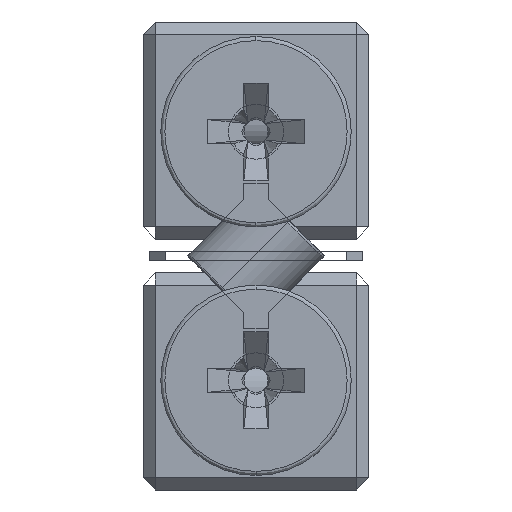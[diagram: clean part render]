
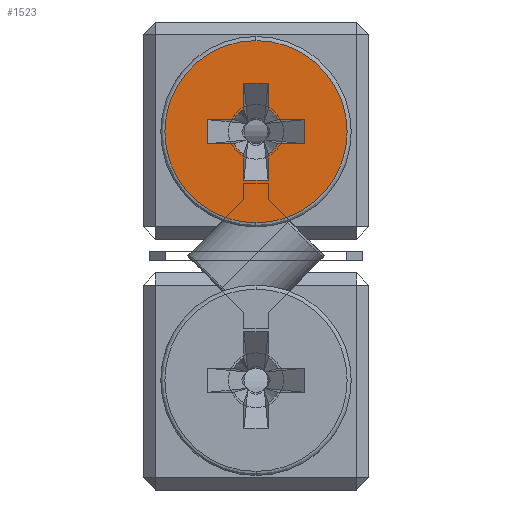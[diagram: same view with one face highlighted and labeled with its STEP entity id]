
A CAD part, left-side view. The second image highlights one B-rep face of the part: STEP entity #1523.
In plain terms, the highlighted planar face has unit normal (-1, 0, 0).
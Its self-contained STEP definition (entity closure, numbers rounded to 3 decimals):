
#839 = DIRECTION ( 'NONE',  ( 0., -1., 0. ) ) ;
#840 = CARTESIAN_POINT ( 'NONE',  ( -521.307, 70.585, 24.95 ) ) ;
#845 = CARTESIAN_POINT ( 'NONE',  ( -521.307, 75.085, 32.45 ) ) ;
#846 = DIRECTION ( 'NONE',  ( 0., 0., 1. ) ) ;
#847 = CARTESIAN_POINT ( 'NONE',  ( -521.307, 69.085, 30.95 ) ) ;
#848 = DIRECTION ( 'NONE',  ( -1., 0., 0. ) ) ;
#849 = DIRECTION ( 'NONE',  ( 0., 0., 1. ) ) ;
#850 = CARTESIAN_POINT ( 'NONE',  ( -521.307, 75.085, 32.45 ) ) ;
#851 = DIRECTION ( 'NONE',  ( 0., 0., -1. ) ) ;
#852 = CARTESIAN_POINT ( 'NONE',  ( -521.307, 63.085, 29.45 ) ) ;
#853 = DIRECTION ( 'NONE',  ( 0., 1., 0. ) ) ;
#854 = CARTESIAN_POINT ( 'NONE',  ( -521.307, 69.085, 30.95 ) ) ;
#855 = DIRECTION ( 'NONE',  ( -1., 0., 0. ) ) ;
#856 = DIRECTION ( 'NONE',  ( 0., 0., 1. ) ) ;
#857 = CARTESIAN_POINT ( 'NONE',  ( -521.307, 69.085, 30.95 ) ) ;
#858 = DIRECTION ( 'NONE',  ( -1., 0., 0. ) ) ;
#859 = DIRECTION ( 'NONE',  ( 0., 0., -1. ) ) ;
#864 = DIRECTION ( 'NONE',  ( 0., 0., -1. ) ) ;
#868 = CARTESIAN_POINT ( 'NONE',  ( -521.307, 70.585, 24.95 ) ) ;
#869 = CARTESIAN_POINT ( 'NONE',  ( -521.307, 67.585, 36.95 ) ) ;
#876 = DIRECTION ( 'NONE',  ( 0., -1., 0. ) ) ;
#886 = CARTESIAN_POINT ( 'NONE',  ( -521.307, 70.585, 24.95 ) ) ;
#887 = DIRECTION ( 'NONE',  ( 0., 0., 1. ) ) ;
#889 = CARTESIAN_POINT ( 'NONE',  ( -521.307, 67.585, 36.95 ) ) ;
#896 = DIRECTION ( 'NONE',  ( 0., 1., 0. ) ) ;
#904 = CARTESIAN_POINT ( 'NONE',  ( -521.307, 75.085, 32.45 ) ) ;
#905 = DIRECTION ( 'NONE',  ( 0., -1., 0. ) ) ;
#906 = CARTESIAN_POINT ( 'NONE',  ( -521.307, 67.585, 36.95 ) ) ;
#907 = DIRECTION ( 'NONE',  ( 0., 0., -1. ) ) ;
#914 = CARTESIAN_POINT ( 'NONE',  ( -521.307, 63.085, 29.45 ) ) ;
#916 = DIRECTION ( 'NONE',  ( 0., 0., 1. ) ) ;
#919 = CARTESIAN_POINT ( 'NONE',  ( -521.307, 63.085, 29.45 ) ) ;
#920 = DIRECTION ( 'NONE',  ( 0., 1., 0. ) ) ;
#941 = CARTESIAN_POINT ( 'NONE',  ( -521.307, 69.085, 30.95 ) ) ;
#942 = DIRECTION ( 'NONE',  ( -1., 0., 0. ) ) ;
#943 = DIRECTION ( 'NONE',  ( 0., 0., -1. ) ) ;
#958 = CARTESIAN_POINT ( 'NONE',  ( -521.307, 69.085, 30.95 ) ) ;
#959 = DIRECTION ( 'NONE',  ( -1., 0., 0. ) ) ;
#960 = DIRECTION ( 'NONE',  ( 0., 0., 1. ) ) ;
#979 = CARTESIAN_POINT ( 'NONE',  ( -521.307, 69.085, 30.95 ) ) ;
#980 = DIRECTION ( 'NONE',  ( -1., 0., 0. ) ) ;
#981 = DIRECTION ( 'NONE',  ( 0., 0., 1. ) ) ;
#1523 = ADVANCED_FACE ( 'NONE', ( #10070, #10073 ), #16661, .F. ) ;
#1634 = LINE ( 'NONE', #840, #1636 ) ;
#1636 = VECTOR ( 'NONE', #846, 1000. ) ;
#1637 = CIRCLE ( 'NONE', #19050, 3.138 ) ;
#1638 = LINE ( 'NONE', #845, #1640 ) ;
#1639 = LINE ( 'NONE', #850, #1642 ) ;
#1640 = VECTOR ( 'NONE', #839, 1000. ) ;
#1641 = LINE ( 'NONE', #852, #1644 ) ;
#1642 = VECTOR ( 'NONE', #851, 1000. ) ;
#1643 = CIRCLE ( 'NONE', #19051, 3.138 ) ;
#1644 = VECTOR ( 'NONE', #853, 1000. ) ;
#1645 = CIRCLE ( 'NONE', #19052, 11.3 ) ;
#1647 = LINE ( 'NONE', #869, #1651 ) ;
#1649 = LINE ( 'NONE', #868, #1655 ) ;
#1651 = VECTOR ( 'NONE', #864, 1000. ) ;
#1652 = LINE ( 'NONE', #886, #1659 ) ;
#1655 = VECTOR ( 'NONE', #876, 1000. ) ;
#1658 = LINE ( 'NONE', #889, #1660 ) ;
#1659 = VECTOR ( 'NONE', #887, 1000. ) ;
#1660 = VECTOR ( 'NONE', #896, 1000. ) ;
#1663 = LINE ( 'NONE', #914, #1669 ) ;
#1665 = LINE ( 'NONE', #904, #1668 ) ;
#1667 = LINE ( 'NONE', #906, #1670 ) ;
#1668 = VECTOR ( 'NONE', #905, 1000. ) ;
#1669 = VECTOR ( 'NONE', #916, 1000. ) ;
#1670 = VECTOR ( 'NONE', #907, 1000. ) ;
#1675 = LINE ( 'NONE', #919, #1678 ) ;
#1678 = VECTOR ( 'NONE', #920, 1000. ) ;
#1683 = CIRCLE ( 'NONE', #10632, 11.3 ) ;
#1686 = CIRCLE ( 'NONE', #10633, 3.138 ) ;
#1692 = CIRCLE ( 'NONE', #10634, 3.138 ) ;
#2307 = ORIENTED_EDGE ( 'NONE', *, *, #7106, .F. ) ;
#2312 = ORIENTED_EDGE ( 'NONE', *, *, #7057, .T. ) ;
#2313 = ORIENTED_EDGE ( 'NONE', *, *, #7066, .T. ) ;
#2316 = ORIENTED_EDGE ( 'NONE', *, *, #7091, .F. ) ;
#2317 = ORIENTED_EDGE ( 'NONE', *, *, #7064, .F. ) ;
#2341 = ORIENTED_EDGE ( 'NONE', *, *, #7087, .T. ) ;
#2361 = ORIENTED_EDGE ( 'NONE', *, *, #7139, .F. ) ;
#2364 = ORIENTED_EDGE ( 'NONE', *, *, #7100, .T. ) ;
#2370 = ORIENTED_EDGE ( 'NONE', *, *, #7053, .T. ) ;
#2375 = ORIENTED_EDGE ( 'NONE', *, *, #7128, .T. ) ;
#2377 = ORIENTED_EDGE ( 'NONE', *, *, #7061, .T. ) ;
#2386 = ORIENTED_EDGE ( 'NONE', *, *, #7079, .F. ) ;
#2391 = ORIENTED_EDGE ( 'NONE', *, *, #7149, .F. ) ;
#2396 = ORIENTED_EDGE ( 'NONE', *, *, #7074, .T. ) ;
#2397 = ORIENTED_EDGE ( 'NONE', *, *, #7113, .T. ) ;
#2406 = ORIENTED_EDGE ( 'NONE', *, *, #7059, .F. ) ;
#2436 = ORIENTED_EDGE ( 'NONE', *, *, #7102, .T. ) ;
#2448 = ORIENTED_EDGE ( 'NONE', *, *, #7055, .F. ) ;
#7053 = EDGE_CURVE ( 'NONE', #14700, #14698, #1634, .T. ) ;
#7055 = EDGE_CURVE ( 'NONE', #14700, #14776, #1637, .T. ) ;
#7057 = EDGE_CURVE ( 'NONE', #14636, #14776, #1638, .T. ) ;
#7059 = EDGE_CURVE ( 'NONE', #14636, #14774, #1639, .T. ) ;
#7061 = EDGE_CURVE ( 'NONE', #14781, #14774, #1641, .T. ) ;
#7064 = EDGE_CURVE ( 'NONE', #14781, #14653, #1643, .T. ) ;
#7066 = EDGE_CURVE ( 'NONE', #14743, #14696, #1645, .T. ) ;
#7074 = EDGE_CURVE ( 'NONE', #14757, #14619, #1647, .T. ) ;
#7079 = EDGE_CURVE ( 'NONE', #14633, #14619, #1649, .T. ) ;
#7087 = EDGE_CURVE ( 'NONE', #14633, #14653, #1652, .T. ) ;
#7091 = EDGE_CURVE ( 'NONE', #14707, #14698, #1658, .T. ) ;
#7100 = EDGE_CURVE ( 'NONE', #14761, #14651, #1665, .T. ) ;
#7102 = EDGE_CURVE ( 'NONE', #14707, #14690, #1667, .T. ) ;
#7106 = EDGE_CURVE ( 'NONE', #14694, #14651, #1663, .T. ) ;
#7113 = EDGE_CURVE ( 'NONE', #14694, #14758, #1675, .T. ) ;
#7128 = EDGE_CURVE ( 'NONE', #14696, #14743, #1683, .T. ) ;
#7139 = EDGE_CURVE ( 'NONE', #14761, #14690, #1686, .T. ) ;
#7149 = EDGE_CURVE ( 'NONE', #14757, #14758, #1692, .T. ) ;
#8929 = CARTESIAN_POINT ( 'NONE',  ( -521.307, 67.585, 24.95 ) ) ;
#8948 = CARTESIAN_POINT ( 'NONE',  ( -521.307, 70.585, 24.95 ) ) ;
#8952 = CARTESIAN_POINT ( 'NONE',  ( -521.307, 75.085, 32.45 ) ) ;
#8968 = CARTESIAN_POINT ( 'NONE',  ( -521.307, 63.085, 32.45 ) ) ;
#8970 = CARTESIAN_POINT ( 'NONE',  ( -521.307, 70.585, 28.194 ) ) ;
#9014 = CARTESIAN_POINT ( 'NONE',  ( -521.307, 67.585, 33.706 ) ) ;
#9020 = CARTESIAN_POINT ( 'NONE',  ( -521.307, 63.085, 29.45 ) ) ;
#9024 = CARTESIAN_POINT ( 'NONE',  ( -521.307, 69.085, 42.25 ) ) ;
#9027 = CARTESIAN_POINT ( 'NONE',  ( -521.307, 70.585, 36.95 ) ) ;
#9030 = CARTESIAN_POINT ( 'NONE',  ( -521.307, 70.585, 33.706 ) ) ;
#9039 = CARTESIAN_POINT ( 'NONE',  ( -521.307, 67.585, 36.95 ) ) ;
#9086 = CARTESIAN_POINT ( 'NONE',  ( -521.307, 69.085, 19.65 ) ) ;
#9101 = CARTESIAN_POINT ( 'NONE',  ( -521.307, 67.585, 28.194 ) ) ;
#9102 = CARTESIAN_POINT ( 'NONE',  ( -521.307, 66.329, 29.45 ) ) ;
#9105 = CARTESIAN_POINT ( 'NONE',  ( -521.307, 66.329, 32.45 ) ) ;
#9120 = CARTESIAN_POINT ( 'NONE',  ( -521.307, 75.085, 29.45 ) ) ;
#9122 = CARTESIAN_POINT ( 'NONE',  ( -521.307, 71.841, 32.45 ) ) ;
#9127 = CARTESIAN_POINT ( 'NONE',  ( -521.307, 71.841, 29.45 ) ) ;
#10070 = FACE_OUTER_BOUND ( 'NONE', #10270, .T. ) ;
#10073 = FACE_BOUND ( 'NONE', #10274, .T. ) ;
#10270 = EDGE_LOOP ( 'NONE', ( #2313, #2375 ) ) ;
#10274 = EDGE_LOOP ( 'NONE', ( #2391, #2396, #2386, #2341, #2317, #2377, #2406, #2312, #2448, #2370, #2316, #2436, #2361, #2364, #2307, #2397 ) ) ;
#10632 = AXIS2_PLACEMENT_3D ( 'NONE', #941, #942, #943 ) ;
#10633 = AXIS2_PLACEMENT_3D ( 'NONE', #958, #959, #960 ) ;
#10634 = AXIS2_PLACEMENT_3D ( 'NONE', #979, #980, #981 ) ;
#14619 = VERTEX_POINT ( 'NONE', #8929 ) ;
#14633 = VERTEX_POINT ( 'NONE', #8948 ) ;
#14636 = VERTEX_POINT ( 'NONE', #8952 ) ;
#14651 = VERTEX_POINT ( 'NONE', #8968 ) ;
#14653 = VERTEX_POINT ( 'NONE', #8970 ) ;
#14690 = VERTEX_POINT ( 'NONE', #9014 ) ;
#14694 = VERTEX_POINT ( 'NONE', #9020 ) ;
#14696 = VERTEX_POINT ( 'NONE', #9024 ) ;
#14698 = VERTEX_POINT ( 'NONE', #9027 ) ;
#14700 = VERTEX_POINT ( 'NONE', #9030 ) ;
#14707 = VERTEX_POINT ( 'NONE', #9039 ) ;
#14743 = VERTEX_POINT ( 'NONE', #9086 ) ;
#14757 = VERTEX_POINT ( 'NONE', #9101 ) ;
#14758 = VERTEX_POINT ( 'NONE', #9102 ) ;
#14761 = VERTEX_POINT ( 'NONE', #9105 ) ;
#14774 = VERTEX_POINT ( 'NONE', #9120 ) ;
#14776 = VERTEX_POINT ( 'NONE', #9122 ) ;
#14781 = VERTEX_POINT ( 'NONE', #9127 ) ;
#16190 = DIRECTION ( 'NONE',  ( 0., 0., -1. ) ) ;
#16654 = CARTESIAN_POINT ( 'NONE',  ( -521.307, 80.885, 30.95 ) ) ;
#16661 = PLANE ( 'NONE',  #18722 ) ;
#16667 = DIRECTION ( 'NONE',  ( 1., 0., 0. ) ) ;
#18722 = AXIS2_PLACEMENT_3D ( 'NONE', #16654, #16667, #16190 ) ;
#19050 = AXIS2_PLACEMENT_3D ( 'NONE', #847, #848, #849 ) ;
#19051 = AXIS2_PLACEMENT_3D ( 'NONE', #854, #855, #856 ) ;
#19052 = AXIS2_PLACEMENT_3D ( 'NONE', #857, #858, #859 ) ;
